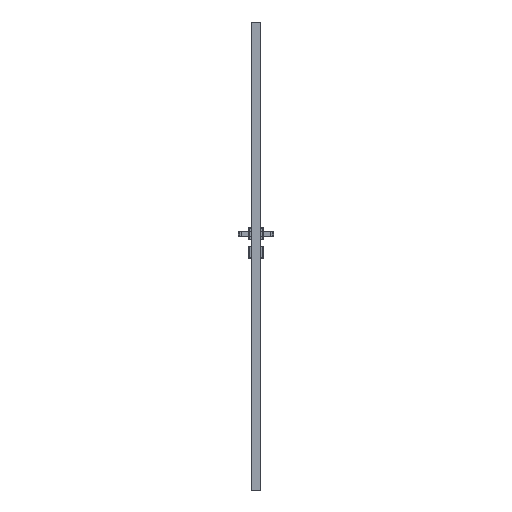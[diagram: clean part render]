
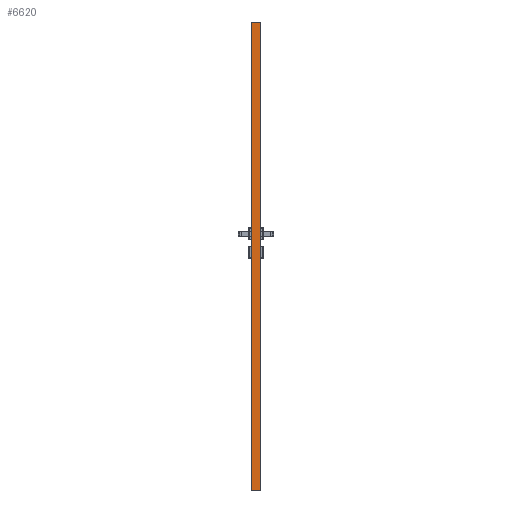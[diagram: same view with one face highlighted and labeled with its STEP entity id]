
A CAD part, left-side view. The second image highlights one B-rep face of the part: STEP entity #6620.
In plain terms, the highlighted planar face has unit normal (-1, 0, 0).
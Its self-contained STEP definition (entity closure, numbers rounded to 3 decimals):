
#6620=ADVANCED_FACE('',(#11928),#10400,.F.);
#10400=PLANE('',#62097);
#11928=FACE_OUTER_BOUND('',#15654,.T.);
#15654=EDGE_LOOP('',(#20694,#20695,#20696,#20697,#20698,#20699));
#20694=ORIENTED_EDGE('',*,*,#42390,.T.);
#20695=ORIENTED_EDGE('',*,*,#42396,.T.);
#20696=ORIENTED_EDGE('',*,*,#42397,.T.);
#20697=ORIENTED_EDGE('',*,*,#42398,.T.);
#20698=ORIENTED_EDGE('',*,*,#42380,.F.);
#20699=ORIENTED_EDGE('',*,*,#42399,.F.);
#37160=VERTEX_POINT('',#79365);
#37161=VERTEX_POINT('',#79366);
#37170=VERTEX_POINT('',#79385);
#37171=VERTEX_POINT('',#79387);
#37176=VERTEX_POINT('',#79399);
#37177=VERTEX_POINT('',#79401);
#42380=EDGE_CURVE('',#37160,#37161,#50738,.T.);
#42390=EDGE_CURVE('',#37171,#37170,#50748,.T.);
#42396=EDGE_CURVE('',#37170,#37176,#50754,.T.);
#42397=EDGE_CURVE('',#37176,#37177,#50755,.T.);
#42398=EDGE_CURVE('',#37177,#37161,#50756,.T.);
#42399=EDGE_CURVE('',#37171,#37160,#50757,.T.);
#50738=LINE('',#79364,#56366);
#50748=LINE('',#79386,#56376);
#50754=LINE('',#79398,#56382);
#50755=LINE('',#79400,#56383);
#50756=LINE('',#79402,#56384);
#50757=LINE('',#79403,#56385);
#56366=VECTOR('',#65693,1.);
#56376=VECTOR('',#65705,1.);
#56382=VECTOR('',#65713,1.);
#56383=VECTOR('',#65714,1.);
#56384=VECTOR('',#65715,1.);
#56385=VECTOR('',#65716,1.);
#62097=AXIS2_PLACEMENT_3D('',#79404,#65717,#65718);
#65693=DIRECTION('',(0.,0.,-1.));
#65705=DIRECTION('',(0.,0.,-1.));
#65713=DIRECTION('',(0.,-0.707,-0.707));
#65714=DIRECTION('',(0.,-1.,0.));
#65715=DIRECTION('',(0.,-0.707,0.707));
#65716=DIRECTION('',(0.,-1.,0.));
#65717=DIRECTION('',(1.,0.,0.));
#65718=DIRECTION('',(0.,1.,0.));
#79364=CARTESIAN_POINT('',(-309.,-39.3,2017.));
#79365=CARTESIAN_POINT('',(-309.,-39.3,2017.));
#79366=CARTESIAN_POINT('',(-309.,-39.3,2.));
#79385=CARTESIAN_POINT('',(-309.,0.,2.));
#79386=CARTESIAN_POINT('',(-309.,0.,2017.));
#79387=CARTESIAN_POINT('',(-309.,0.,2017.));
#79398=CARTESIAN_POINT('',(-309.,0.,2.));
#79399=CARTESIAN_POINT('',(-309.,-2.,0.));
#79400=CARTESIAN_POINT('',(-309.,0.,0.));
#79401=CARTESIAN_POINT('',(-309.,-37.3,0.));
#79402=CARTESIAN_POINT('',(-309.,-39.3,2.));
#79403=CARTESIAN_POINT('',(-309.,0.,2017.));
#79404=CARTESIAN_POINT('',(-309.,0.,2017.));
